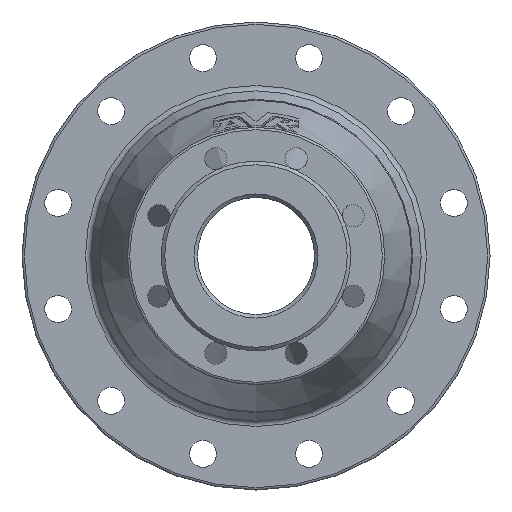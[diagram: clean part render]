
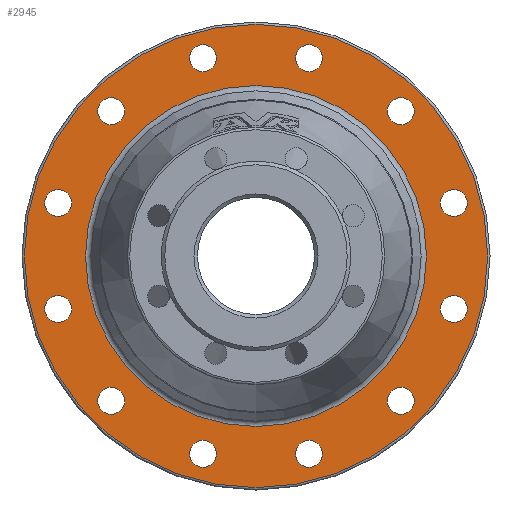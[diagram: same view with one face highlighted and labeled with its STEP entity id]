
A CAD part, left-side view. The second image highlights one B-rep face of the part: STEP entity #2945.
In plain terms, the highlighted planar face has unit normal (-1, 0, 0).
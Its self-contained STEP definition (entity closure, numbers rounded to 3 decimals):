
#20 = EDGE_CURVE ( 'NONE', #2284, #2284, #754, .T. ) ;
#27 = VERTEX_POINT ( 'NONE', #2519 ) ;
#59 = VERTEX_POINT ( 'NONE', #1380 ) ;
#89 = CARTESIAN_POINT ( 'NONE',  ( 278., 45.293, -169.037 ) ) ;
#99 = DIRECTION ( 'NONE',  ( 1., 0., 0. ) ) ;
#107 = DIRECTION ( 'NONE',  ( 1., 0., 0. ) ) ;
#148 = CIRCLE ( 'NONE', #389, 11.5 ) ;
#167 = EDGE_LOOP ( 'NONE', ( #281 ) ) ;
#170 = FACE_BOUND ( 'NONE', #2095, .T. ) ;
#183 = CARTESIAN_POINT ( 'NONE',  ( 278., -123.744, 123.744 ) ) ;
#185 = DIRECTION ( 'NONE',  ( 0., 0., -1. ) ) ;
#227 = VERTEX_POINT ( 'NONE', #938 ) ;
#241 = DIRECTION ( 'NONE',  ( 1., 0., 0. ) ) ;
#244 = VERTEX_POINT ( 'NONE', #2743 ) ;
#281 = ORIENTED_EDGE ( 'NONE', *, *, #1244, .T. ) ;
#298 = CARTESIAN_POINT ( 'NONE',  ( 278., -123.744, -135.244 ) ) ;
#303 = ORIENTED_EDGE ( 'NONE', *, *, #1303, .T. ) ;
#309 = AXIS2_PLACEMENT_3D ( 'NONE', #2791, #99, #1223 ) ;
#327 = ORIENTED_EDGE ( 'NONE', *, *, #2970, .T. ) ;
#330 = DIRECTION ( 'NONE',  ( 0., 0., -1. ) ) ;
#331 = VERTEX_POINT ( 'NONE', #993 ) ;
#345 = CIRCLE ( 'NONE', #1483, 11.5 ) ;
#366 = DIRECTION ( 'NONE',  ( 1., 0., 0. ) ) ;
#370 = EDGE_LOOP ( 'NONE', ( #1990 ) ) ;
#382 = CARTESIAN_POINT ( 'NONE',  ( 278., -45.293, -169.037 ) ) ;
#389 = AXIS2_PLACEMENT_3D ( 'NONE', #382, #1742, #2472 ) ;
#399 = AXIS2_PLACEMENT_3D ( 'NONE', #551, #366, #1968 ) ;
#430 = FACE_BOUND ( 'NONE', #2272, .T. ) ;
#440 = AXIS2_PLACEMENT_3D ( 'NONE', #2237, #2670, #2487 ) ;
#458 = CARTESIAN_POINT ( 'NONE',  ( 278., 0., -145.685 ) ) ;
#463 = FACE_BOUND ( 'NONE', #2041, .T. ) ;
#476 = VERTEX_POINT ( 'NONE', #2066 ) ;
#551 = CARTESIAN_POINT ( 'NONE',  ( 278., 123.744, -123.744 ) ) ;
#556 = ORIENTED_EDGE ( 'NONE', *, *, #1749, .T. ) ;
#578 = CIRCLE ( 'NONE', #2242, 11.5 ) ;
#643 = DIRECTION ( 'NONE',  ( 0., 0., -1. ) ) ;
#659 = DIRECTION ( 'NONE',  ( 1., 0., 0. ) ) ;
#692 = FACE_BOUND ( 'NONE', #1294, .T. ) ;
#734 = AXIS2_PLACEMENT_3D ( 'NONE', #888, #2246, #185 ) ;
#753 = VERTEX_POINT ( 'NONE', #1423 ) ;
#754 = CIRCLE ( 'NONE', #812, 11.5 ) ;
#758 = EDGE_LOOP ( 'NONE', ( #1479 ) ) ;
#775 = ORIENTED_EDGE ( 'NONE', *, *, #2007, .T. ) ;
#812 = AXIS2_PLACEMENT_3D ( 'NONE', #183, #2259, #643 ) ;
#824 = ORIENTED_EDGE ( 'NONE', *, *, #1139, .T. ) ;
#840 = AXIS2_PLACEMENT_3D ( 'NONE', #1133, #2965, #1352 ) ;
#874 = CARTESIAN_POINT ( 'NONE',  ( 278., 142.5, 0. ) ) ;
#888 = CARTESIAN_POINT ( 'NONE',  ( 278., 169.037, 45.293 ) ) ;
#927 = ORIENTED_EDGE ( 'NONE', *, *, #2449, .T. ) ;
#938 = CARTESIAN_POINT ( 'NONE',  ( 278., 0., -198. ) ) ;
#979 = CIRCLE ( 'NONE', #309, 145.685 ) ;
#993 = CARTESIAN_POINT ( 'NONE',  ( 278., -169.037, -56.793 ) ) ;
#1071 = EDGE_CURVE ( 'NONE', #1482, #1482, #1209, .T. ) ;
#1073 = ORIENTED_EDGE ( 'NONE', *, *, #1071, .T. ) ;
#1074 = EDGE_CURVE ( 'NONE', #2155, #2155, #1692, .T. ) ;
#1083 = EDGE_LOOP ( 'NONE', ( #1073 ) ) ;
#1087 = FACE_BOUND ( 'NONE', #1656, .T. ) ;
#1100 = EDGE_LOOP ( 'NONE', ( #824 ) ) ;
#1103 = FACE_BOUND ( 'NONE', #1083, .T. ) ;
#1113 = CIRCLE ( 'NONE', #2593, 11.5 ) ;
#1133 = CARTESIAN_POINT ( 'NONE',  ( 278., -123.744, -123.744 ) ) ;
#1139 = EDGE_CURVE ( 'NONE', #1396, #1396, #345, .T. ) ;
#1145 = FACE_BOUND ( 'NONE', #370, .T. ) ;
#1147 = AXIS2_PLACEMENT_3D ( 'NONE', #2088, #2309, #1642 ) ;
#1161 = CIRCLE ( 'NONE', #840, 11.5 ) ;
#1181 = CARTESIAN_POINT ( 'NONE',  ( 278., 45.293, 169.037 ) ) ;
#1207 = CIRCLE ( 'NONE', #734, 11.5 ) ;
#1209 = CIRCLE ( 'NONE', #1305, 11.5 ) ;
#1223 = DIRECTION ( 'NONE',  ( 0., 0., -1. ) ) ;
#1244 = EDGE_CURVE ( 'NONE', #227, #227, #2876, .T. ) ;
#1294 = EDGE_LOOP ( 'NONE', ( #2560 ) ) ;
#1303 = EDGE_CURVE ( 'NONE', #59, #59, #148, .T. ) ;
#1305 = AXIS2_PLACEMENT_3D ( 'NONE', #89, #107, #330 ) ;
#1352 = DIRECTION ( 'NONE',  ( 0., 0., -1. ) ) ;
#1367 = CARTESIAN_POINT ( 'NONE',  ( 278., 169.037, -56.793 ) ) ;
#1380 = CARTESIAN_POINT ( 'NONE',  ( 278., -45.293, -180.537 ) ) ;
#1396 = VERTEX_POINT ( 'NONE', #1874 ) ;
#1423 = CARTESIAN_POINT ( 'NONE',  ( 278., 169.037, 33.793 ) ) ;
#1479 = ORIENTED_EDGE ( 'NONE', *, *, #20, .T. ) ;
#1482 = VERTEX_POINT ( 'NONE', #2820 ) ;
#1483 = AXIS2_PLACEMENT_3D ( 'NONE', #1955, #2133, #2150 ) ;
#1550 = FACE_BOUND ( 'NONE', #2124, .T. ) ;
#1590 = DIRECTION ( 'NONE',  ( 0., 0., -1. ) ) ;
#1600 = FACE_BOUND ( 'NONE', #1732, .T. ) ;
#1612 = CARTESIAN_POINT ( 'NONE',  ( 278., -169.037, -45.293 ) ) ;
#1642 = DIRECTION ( 'NONE',  ( 0., 0., -1. ) ) ;
#1656 = EDGE_LOOP ( 'NONE', ( #2687 ) ) ;
#1670 = CIRCLE ( 'NONE', #1147, 11.5 ) ;
#1692 = CIRCLE ( 'NONE', #399, 11.5 ) ;
#1717 = CARTESIAN_POINT ( 'NONE',  ( 278., 123.744, -135.244 ) ) ;
#1732 = EDGE_LOOP ( 'NONE', ( #1972 ) ) ;
#1742 = DIRECTION ( 'NONE',  ( 1., 0., 0. ) ) ;
#1749 = EDGE_CURVE ( 'NONE', #244, #244, #1751, .T. ) ;
#1751 = CIRCLE ( 'NONE', #2470, 11.5 ) ;
#1757 = CARTESIAN_POINT ( 'NONE',  ( 278., -169.037, 45.293 ) ) ;
#1790 = CARTESIAN_POINT ( 'NONE',  ( 278., -45.293, 169.037 ) ) ;
#1798 = FACE_BOUND ( 'NONE', #1100, .T. ) ;
#1825 = ORIENTED_EDGE ( 'NONE', *, *, #2823, .T. ) ;
#1828 = FACE_OUTER_BOUND ( 'NONE', #167, .T. ) ;
#1872 = DIRECTION ( 'NONE',  ( 0., 0., -1. ) ) ;
#1874 = CARTESIAN_POINT ( 'NONE',  ( 278., 123.744, 112.244 ) ) ;
#1955 = CARTESIAN_POINT ( 'NONE',  ( 278., 123.744, 123.744 ) ) ;
#1968 = DIRECTION ( 'NONE',  ( 0., 0., -1. ) ) ;
#1972 = ORIENTED_EDGE ( 'NONE', *, *, #1074, .T. ) ;
#1990 = ORIENTED_EDGE ( 'NONE', *, *, #2843, .T. ) ;
#2007 = EDGE_CURVE ( 'NONE', #476, #476, #578, .T. ) ;
#2034 = AXIS2_PLACEMENT_3D ( 'NONE', #874, #2060, #2513 ) ;
#2039 = CARTESIAN_POINT ( 'NONE',  ( 278., -123.744, 112.244 ) ) ;
#2041 = EDGE_LOOP ( 'NONE', ( #1825 ) ) ;
#2043 = DIRECTION ( 'NONE',  ( 0., 0., -1. ) ) ;
#2060 = DIRECTION ( 'NONE',  ( 1., 0., 0. ) ) ;
#2066 = CARTESIAN_POINT ( 'NONE',  ( 278., 45.293, 157.537 ) ) ;
#2088 = CARTESIAN_POINT ( 'NONE',  ( 278., 169.037, -45.293 ) ) ;
#2095 = EDGE_LOOP ( 'NONE', ( #927 ) ) ;
#2124 = EDGE_LOOP ( 'NONE', ( #327 ) ) ;
#2133 = DIRECTION ( 'NONE',  ( 1., 0., 0. ) ) ;
#2145 = EDGE_CURVE ( 'NONE', #2508, #2508, #979, .T. ) ;
#2150 = DIRECTION ( 'NONE',  ( 0., 0., -1. ) ) ;
#2155 = VERTEX_POINT ( 'NONE', #1717 ) ;
#2237 = CARTESIAN_POINT ( 'NONE',  ( 278., 0., 0. ) ) ;
#2242 = AXIS2_PLACEMENT_3D ( 'NONE', #1181, #241, #1872 ) ;
#2246 = DIRECTION ( 'NONE',  ( 1., 0., 0. ) ) ;
#2259 = DIRECTION ( 'NONE',  ( 1., 0., 0. ) ) ;
#2272 = EDGE_LOOP ( 'NONE', ( #303 ) ) ;
#2284 = VERTEX_POINT ( 'NONE', #2039 ) ;
#2309 = DIRECTION ( 'NONE',  ( 1., 0., 0. ) ) ;
#2314 = EDGE_LOOP ( 'NONE', ( #556 ) ) ;
#2350 = CIRCLE ( 'NONE', #2398, 11.5 ) ;
#2357 = VERTEX_POINT ( 'NONE', #298 ) ;
#2398 = AXIS2_PLACEMENT_3D ( 'NONE', #1757, #2673, #1590 ) ;
#2406 = EDGE_CURVE ( 'NONE', #27, #27, #2350, .T. ) ;
#2449 = EDGE_CURVE ( 'NONE', #2770, #2770, #1670, .T. ) ;
#2470 = AXIS2_PLACEMENT_3D ( 'NONE', #1790, #2699, #2911 ) ;
#2472 = DIRECTION ( 'NONE',  ( 0., 0., -1. ) ) ;
#2487 = DIRECTION ( 'NONE',  ( 0., 0., -1. ) ) ;
#2496 = FACE_BOUND ( 'NONE', #2879, .T. ) ;
#2508 = VERTEX_POINT ( 'NONE', #458 ) ;
#2513 = DIRECTION ( 'NONE',  ( 0., 0., -1. ) ) ;
#2519 = CARTESIAN_POINT ( 'NONE',  ( 278., -169.037, 33.793 ) ) ;
#2560 = ORIENTED_EDGE ( 'NONE', *, *, #2145, .T. ) ;
#2593 = AXIS2_PLACEMENT_3D ( 'NONE', #1612, #659, #2043 ) ;
#2670 = DIRECTION ( 'NONE',  ( -1., 0., 0. ) ) ;
#2673 = DIRECTION ( 'NONE',  ( 1., 0., 0. ) ) ;
#2687 = ORIENTED_EDGE ( 'NONE', *, *, #2406, .T. ) ;
#2699 = DIRECTION ( 'NONE',  ( 1., 0., 0. ) ) ;
#2722 = FACE_BOUND ( 'NONE', #2314, .T. ) ;
#2743 = CARTESIAN_POINT ( 'NONE',  ( 278., -45.293, 157.537 ) ) ;
#2770 = VERTEX_POINT ( 'NONE', #1367 ) ;
#2791 = CARTESIAN_POINT ( 'NONE',  ( 278., 0., 0. ) ) ;
#2820 = CARTESIAN_POINT ( 'NONE',  ( 278., 45.293, -180.537 ) ) ;
#2823 = EDGE_CURVE ( 'NONE', #331, #331, #1113, .T. ) ;
#2843 = EDGE_CURVE ( 'NONE', #753, #753, #1207, .T. ) ;
#2876 = CIRCLE ( 'NONE', #440, 198. ) ;
#2879 = EDGE_LOOP ( 'NONE', ( #775 ) ) ;
#2911 = DIRECTION ( 'NONE',  ( 0., 0., -1. ) ) ;
#2918 = PLANE ( 'NONE',  #2034 ) ;
#2945 = ADVANCED_FACE ( 'NONE', ( #692, #1828, #1600, #170, #1145, #1798, #2496, #2722, #2951, #1087, #463, #1550, #430, #1103 ), #2918, .F. ) ;
#2951 = FACE_BOUND ( 'NONE', #758, .T. ) ;
#2965 = DIRECTION ( 'NONE',  ( 1., 0., 0. ) ) ;
#2970 = EDGE_CURVE ( 'NONE', #2357, #2357, #1161, .T. ) ;
